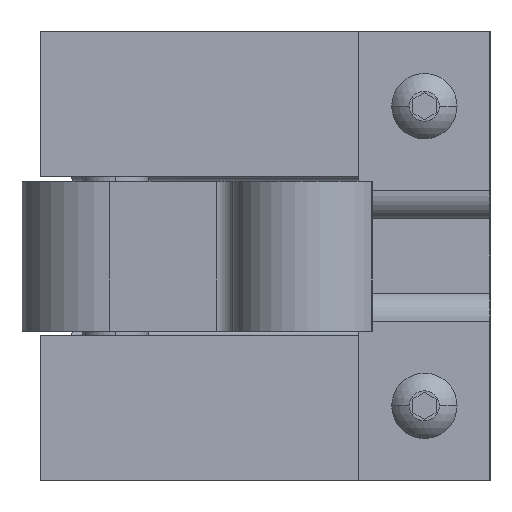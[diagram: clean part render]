
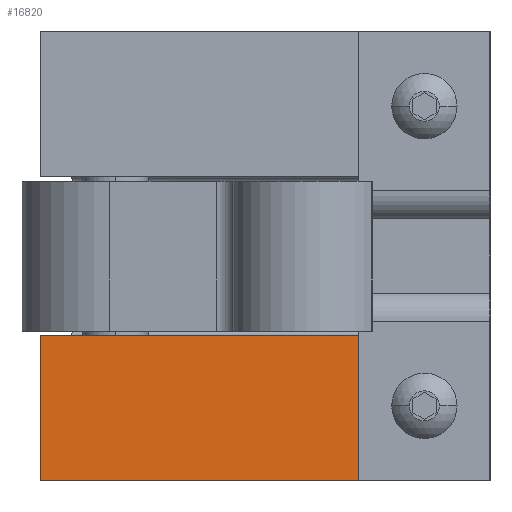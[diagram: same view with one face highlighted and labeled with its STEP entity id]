
A CAD part, left-side view. The second image highlights one B-rep face of the part: STEP entity #16820.
In plain terms, the highlighted planar face has unit normal (-1, 0, 0).
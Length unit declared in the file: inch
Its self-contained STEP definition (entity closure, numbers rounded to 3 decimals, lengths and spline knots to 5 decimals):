
#6258 = CARTESIAN_POINT ( 'NONE',  ( 5.66064, 3.20971, -2.625 ) ) ;
#6391 = CARTESIAN_POINT ( 'NONE',  ( 5.66064, 3.20971, -2.375 ) ) ;
#6452 = DIRECTION ( 'NONE',  ( 0., 0., 1. ) ) ;
#6453 = DIRECTION ( 'NONE',  ( -1., 0., 0. ) ) ;
#6454 = CARTESIAN_POINT ( 'NONE',  ( 5.66064, 3.20971, -2.5 ) ) ;
#6455 = AXIS2_PLACEMENT_3D ( 'NONE', #6454, #6453, #6452 ) ;
#6480 = CIRCLE ( 'NONE', #6455, 0.125 ) ;
#8640 = DIRECTION ( 'NONE',  ( 0., 0., 1. ) ) ;
#8641 = DIRECTION ( 'NONE',  ( -1., 0., 0. ) ) ;
#8644 = CARTESIAN_POINT ( 'NONE',  ( 5.66064, 2.77171, -3. ) ) ;
#8645 = AXIS2_PLACEMENT_3D ( 'NONE', #8644, #8641, #8640 ) ;
#8646 = FACE_OUTER_BOUND ( 'NONE', #16819, .T. ) ;
#8647 = FACE_BOUND ( 'NONE', #16825, .T. ) ;
#8704 = CARTESIAN_POINT ( 'NONE',  ( 5.66064, 5.77171, -2.03 ) ) ;
#8705 = DIRECTION ( 'NONE',  ( 0., -1., 0. ) ) ;
#8706 = VECTOR ( 'NONE', #8705, 39.37008 ) ;
#8707 = CARTESIAN_POINT ( 'NONE',  ( 5.66064, 2.77171, -2.03 ) ) ;
#8708 = LINE ( 'NONE', #8707, #8706 ) ;
#8723 = DIRECTION ( 'NONE',  ( 0., 0., 1. ) ) ;
#8724 = DIRECTION ( 'NONE',  ( -1., 0., 0. ) ) ;
#8725 = CARTESIAN_POINT ( 'NONE',  ( 5.66064, 3.20971, -2.5 ) ) ;
#8726 = AXIS2_PLACEMENT_3D ( 'NONE', #8725, #8724, #8723 ) ;
#8727 = CIRCLE ( 'NONE', #8726, 0.125 ) ;
#8765 = PLANE ( 'NONE',  #8645 ) ;
#8816 = CARTESIAN_POINT ( 'NONE',  ( 5.66064, 5.77171, -3. ) ) ;
#8817 = DIRECTION ( 'NONE',  ( 0., 0., 1. ) ) ;
#8818 = VECTOR ( 'NONE', #8817, 39.37008 ) ;
#8819 = CARTESIAN_POINT ( 'NONE',  ( 5.66064, 5.77171, -3. ) ) ;
#8820 = LINE ( 'NONE', #8819, #8818 ) ;
#8913 = CARTESIAN_POINT ( 'NONE',  ( 5.66064, 2.77171, -2.03 ) ) ;
#8962 = CARTESIAN_POINT ( 'NONE',  ( 5.66064, 2.77171, -3. ) ) ;
#8963 = DIRECTION ( 'NONE',  ( 0., 0., 1. ) ) ;
#8964 = VECTOR ( 'NONE', #8963, 39.37008 ) ;
#8965 = CARTESIAN_POINT ( 'NONE',  ( 5.66064, 2.77171, -3. ) ) ;
#8966 = LINE ( 'NONE', #8965, #8964 ) ;
#8995 = VECTOR ( 'NONE', #9083, 39.37008 ) ;
#8996 = CARTESIAN_POINT ( 'NONE',  ( 5.66064, 2.77171, -3. ) ) ;
#8997 = LINE ( 'NONE', #8996, #8995 ) ;
#9083 = DIRECTION ( 'NONE',  ( 0., -1., 0. ) ) ;
#16008 = VERTEX_POINT ( 'NONE', #6258 ) ;
#16010 = EDGE_CURVE ( 'NONE', #16008, #16011, #6480, .T. ) ;
#16011 = VERTEX_POINT ( 'NONE', #6391 ) ;
#16818 = ORIENTED_EDGE ( 'NONE', *, *, #16010, .F. ) ;
#16819 = EDGE_LOOP ( 'NONE', ( #16879, #16841, #16907, #16909 ) ) ;
#16820 = ADVANCED_FACE ( 'NONE', ( #8647, #8646 ), #8765, .T. ) ;
#16825 = EDGE_LOOP ( 'NONE', ( #16826, #16818 ) ) ;
#16826 = ORIENTED_EDGE ( 'NONE', *, *, #16827, .F. ) ;
#16827 = EDGE_CURVE ( 'NONE', #16011, #16008, #8727, .T. ) ;
#16839 = EDGE_CURVE ( 'NONE', #16840, #17036, #8708, .T. ) ;
#16840 = VERTEX_POINT ( 'NONE', #8704 ) ;
#16841 = ORIENTED_EDGE ( 'NONE', *, *, #16853, .F. ) ;
#16853 = EDGE_CURVE ( 'NONE', #16854, #16840, #8820, .T. ) ;
#16854 = VERTEX_POINT ( 'NONE', #8816 ) ;
#16879 = ORIENTED_EDGE ( 'NONE', *, *, #16839, .F. ) ;
#16907 = ORIENTED_EDGE ( 'NONE', *, *, #16908, .T. ) ;
#16908 = EDGE_CURVE ( 'NONE', #16854, #16986, #8997, .T. ) ;
#16909 = ORIENTED_EDGE ( 'NONE', *, *, #16985, .T. ) ;
#16985 = EDGE_CURVE ( 'NONE', #16986, #17036, #8966, .T. ) ;
#16986 = VERTEX_POINT ( 'NONE', #8962 ) ;
#17036 = VERTEX_POINT ( 'NONE', #8913 ) ;
